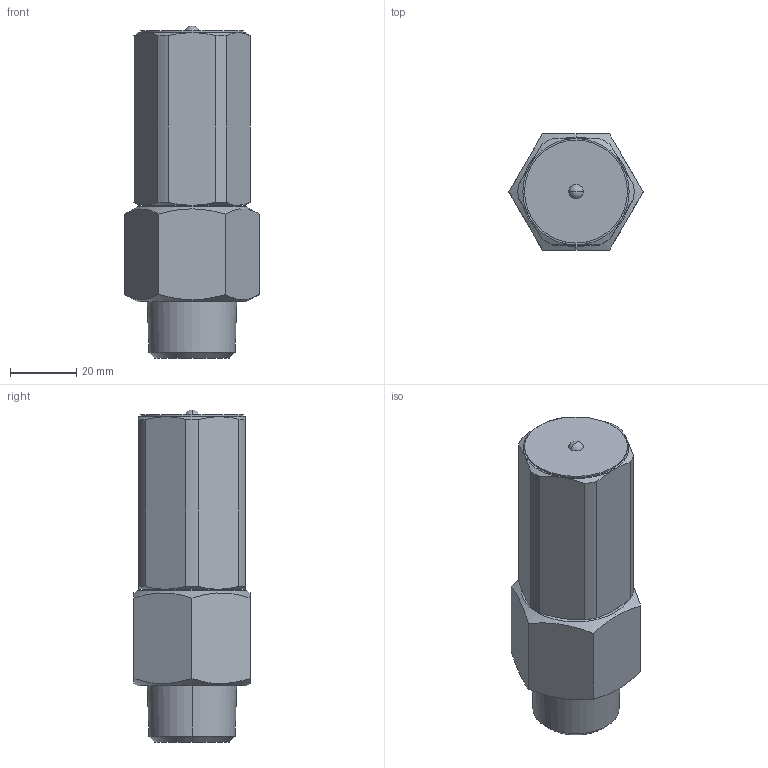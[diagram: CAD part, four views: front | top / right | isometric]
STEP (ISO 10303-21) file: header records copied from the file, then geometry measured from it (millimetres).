
FILE_DESCRIPTION( (''), '2;1');
FILE_NAME ('PC1027.10420.VB-7　20A_7442.stp','2025-07-29T11:54:32',(''),(''),'spGate 20.6.3 (****-****-****-****)','','');
FILE_SCHEMA (('AUTOMOTIVE_DESIGN'));
Length unit declared in the file: millimetre
Bounding box: 40.41 x 35 x 100 mm (x, y, z)
Volume: 85432.9 mm3; surface area: 12615.7 mm2
Topology: 1 solids, 1 shells, 50 faces, 120 edges, 75 vertices
Faces by surface type: bspline 20, plane 18, cylinder 10, sphere 2
Entity records: 2649 total; most frequent: CARTESIAN_POINT 687, ORIENTED_EDGE 236, DIRECTION 170, COLOUR_RGB 169, PRESENTATION_STYLE_ASSIGNMENT 169, STYLED_ITEM 169, EDGE_CURVE 118, DRAUGHTING_PRE_DEFINED_CURVE_FONT 118
